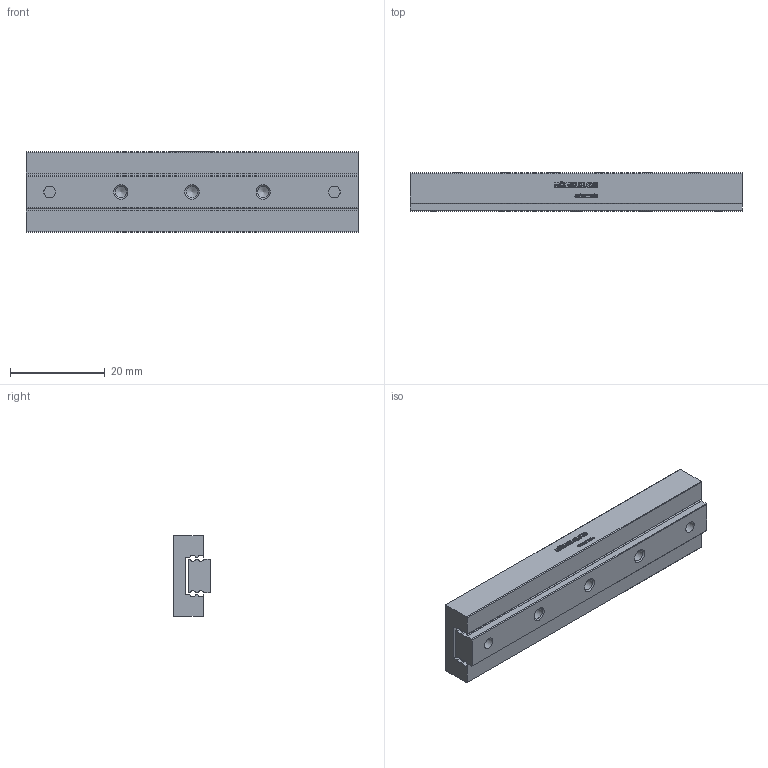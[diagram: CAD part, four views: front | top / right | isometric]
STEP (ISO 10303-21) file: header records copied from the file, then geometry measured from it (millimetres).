
FILE_DESCRIPTION(/* description */ ('STEP AP214'),/* implementation_level */ '2;1');
FILE_NAME(/* name */ 'MSK 7-70.60(0)',/* time_stamp */ '2025-04-16T16:58:23+02:00',/* author */ ('License CC BY-ND 4.0'),/* organization */ ('CADENAS'),/* preprocessor_version */ 'ST-DEVELOPER v19.3',/* originating_system */ 'PARTsolutions',/* authorisation */ ' ');
FILE_SCHEMA (('AUTOMOTIVE_DESIGN {1 0 10303 214 3 1 1}'));
Length unit declared in the file: millimetre
Products named in the file (3): MSK 7-70.60(0); MSK 7-70.60_1; MSK 7-70.60_2
Assembly tree (2 placements, depth 2):
  MSK 7-70.60(0)
    MSK 7-70.60_1
    MSK 7-70.60_2
Bounding box: 70 x 8 x 17 mm (x, y, z)
Volume: 7444 mm3; surface area: 6315.3 mm2
Topology: 2 solids, 2 shells, 554 faces, 1509 edges, 1000 vertices
Faces by surface type: cylinder 319, plane 217, cone 18
Full cylindrical faces by diameter (mm): 1.567 x12, 2.459 x5, 4.5 x2
Entity records: 17625 total; most frequent: DIRECTION 3236, CARTESIAN_POINT 3026, ORIENTED_EDGE 2938, EDGE_CURVE 1469, AXIS2_PLACEMENT_3D 1210, VERTEX_POINT 1000, LINE 816, VECTOR 816
